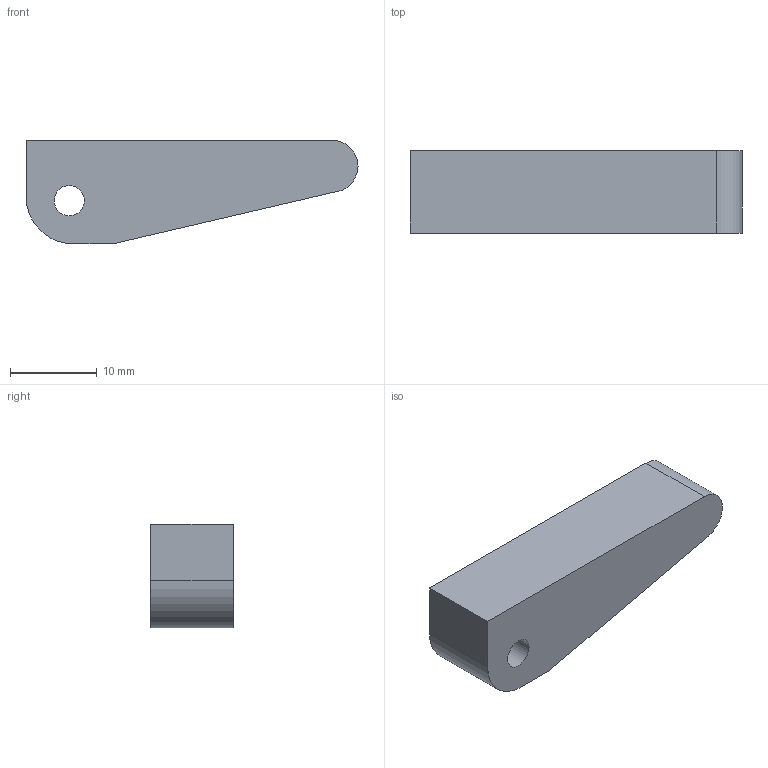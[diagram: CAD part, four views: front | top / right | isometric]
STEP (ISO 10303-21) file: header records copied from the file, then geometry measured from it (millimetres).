
FILE_DESCRIPTION(/* description */ ('STEP AP242','CAx-IF Rec.Pracs.---Representation and Presentation of Product Manufacturing Information (PMI)---4.0---2014-10-13','CAx-IF Rec.Pracs.---3D Tessellated Geometry---0.4---2014-09-14','2;1'),/* implementation_level */ '2;1');
FILE_NAME(/* name */ '62b45d21ccf67d5dda75ca6f',/* time_stamp */ '2022-06-23T12:31:30+00:00',/* author */ (''),/* organization */ (''),/* preprocessor_version */ 'ST-DEVELOPER v18.102',/* originating_system */ ' ',/* authorisation */ ' ');
FILE_SCHEMA (('AP242_MANAGED_MODEL_BASED_3D_ENGINEERING_MIM_LF { 1 0 10303 442 1 1 4 }'));
Length unit declared in the file: metre
Products named in the file (1): Flapper Left
Bounding box: 38.35 x 9.5 x 12 mm (x, y, z)
Volume: 3299.2 mm3; surface area: 1658.4 mm2
Topology: 1 solids, 1 shells, 11 faces, 27 edges, 18 vertices
Faces by surface type: plane 7, cylinder 4
Full cylindrical faces by diameter (mm): 3.5 x1
Entity records: 350 total; most frequent: DIRECTION 58, CARTESIAN_POINT 56, ORIENTED_EDGE 52, EDGE_CURVE 26, AXIS2_PLACEMENT_3D 20, VERTEX_POINT 18, LINE 18, VECTOR 18
